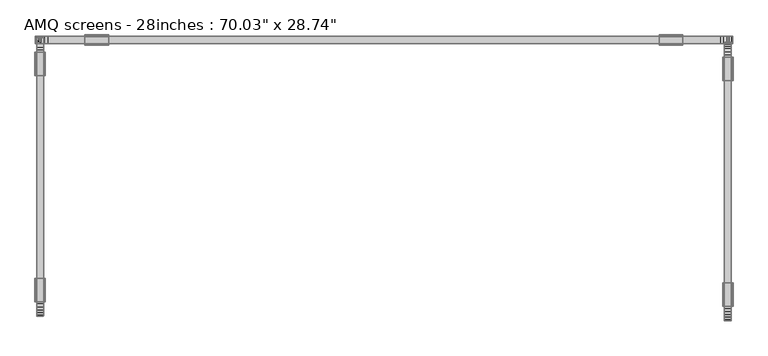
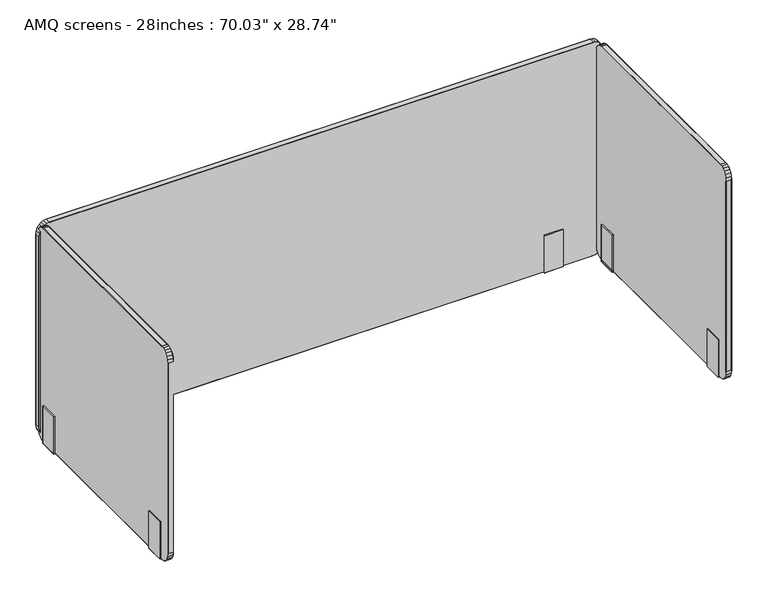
"""IFC4 building model written with IfcOpenShell, lengths in millimetres: furniture geometry."""

import ifcopenshell
import ifcopenshell.guid

model = None  # the IFC model being written
_history = None  # IfcOwnerHistory: only IFC2X3 demands one
_inside = {}  # id of a spatial element -> (the spatial element, [elements in it])
_under = {}  # id of a project, library or spatial element -> (it, [spatial elements below it])
_declared = {}  # id of a project -> (the project, [libraries it declares])
_typed = {}  # id of a type object -> (the type object, [elements of that type])
_made_of = {}  # id of a material, layer set ... -> (it, [elements and type objects made of it])


def new_model(schema):
    """Start an empty IFC model of exactly this schema.

    Asked for "IFC4X3", IfcOpenShell would pick the latest addendum, in which some entities
    have other attributes; the version numbers below select the first issue.
    IFC2X3 requires an IfcOwnerHistory on every rooted entity: one is made here for all.
    """
    global model, _history
    if schema == "IFC4X3":
        model = ifcopenshell.file(schema_version=(4, 3, 0, 0))
    else:
        model = ifcopenshell.file(schema=schema)
    _inside.clear()
    _under.clear()
    _declared.clear()
    _typed.clear()
    _made_of.clear()
    _history = None
    if model.schema == "IFC2X3":
        org = make("IfcOrganization", Name="unknown")
        user = make(
            "IfcPersonAndOrganization",
            ThePerson=make("IfcPerson", FamilyName="unknown"),
            TheOrganization=org,
        )
        app = make(
            "IfcApplication",
            ApplicationDeveloper=org,
            Version="unknown",
            ApplicationFullName="unknown",
            ApplicationIdentifier="unknown",
        )
        _history = make(
            "IfcOwnerHistory",
            OwningUser=user,
            OwningApplication=app,
            ChangeAction="ADDED",
            CreationDate=0,
        )
    return model


def make(cls, **values):
    """One entity of the class cls with the attributes given. An attribute that is None is left unset."""
    return model.create_entity(
        cls, **{name: value for name, value in values.items() if value is not None}
    )


def rooted(cls, **values):
    """An entity with a GlobalId (a new one), such as an element, a storey or a relation."""
    return make(cls, GlobalId=ifcopenshell.guid.new(), OwnerHistory=_history, **values)


def si_unit(unit_type, name, prefix=None):
    """IfcSIUnit, for example si_unit("LENGTHUNIT", "METRE", prefix="MILLI")."""
    return make("IfcSIUnit", UnitType=unit_type, Prefix=prefix, Name=name)


def assignment(units):
    """IfcUnitAssignment: the units of a project."""
    return None if units is None else make("IfcUnitAssignment", Units=units)


def point(xyz):
    """IfcCartesianPoint."""
    return None if xyz is None else make("IfcCartesianPoint", Coordinates=xyz)


def direction(xyz):
    """IfcDirection."""
    return None if xyz is None else make("IfcDirection", DirectionRatios=xyz)


def frame(location, z_axis=None, x_axis=None):
    """IfcAxis2Placement3D, a coordinate frame: its origin and axes. An axis left out is left unset."""
    return make(
        "IfcAxis2Placement3D",
        Location=point(location),
        Axis=direction(z_axis),
        RefDirection=direction(x_axis),
    )


def origin():
    """The frame at (0, 0, 0) with its axes left unset."""
    return frame((0.0, 0.0, 0.0))


def place(relative_to, where):
    """IfcLocalPlacement: puts the frame where relative to a parent placement (None: the world)."""
    return make(
        "IfcLocalPlacement", PlacementRelTo=relative_to, RelativePlacement=where
    )


def context(
    kind, dimensions, precision=None, world=None, true_north=None, identifier=None
):
    """IfcGeometricRepresentationContext, for example the 3D "Model" context."""
    return make(
        "IfcGeometricRepresentationContext",
        ContextIdentifier=identifier,
        ContextType=kind,
        CoordinateSpaceDimension=dimensions,
        Precision=precision,
        WorldCoordinateSystem=world,
        TrueNorth=true_north,
    )


def project(units=None, contexts=None):
    """IfcProject with its units and contexts."""
    return rooted(
        "IfcProject",
        Name="project",
        RepresentationContexts=contexts,
        UnitsInContext=assignment(units),
    )


def spatial(cls, under=None, at=None, **own):
    """A site, building, storey or space (cls), placed at a placement, below another one or the project."""
    s = rooted(cls, ObjectPlacement=at, **own)
    if under is not None:
        _under.setdefault(under.id(), (under, []))[1].append(s)
    return s


def point_list(points):
    """IfcCartesianPointList2D or 3D."""
    cls = (
        "IfcCartesianPointList2D" if len(points[0]) == 2 else "IfcCartesianPointList3D"
    )
    return make(cls, CoordList=points)


def triangles(points, corners, closed=None, point_numbers=None):
    """IfcTriangulatedFaceSet: each triangle names its three corners, points numbered from 1."""
    return make(
        "IfcTriangulatedFaceSet",
        Coordinates=point_list(points),
        Closed=closed,
        CoordIndex=corners,
        PnIndex=point_numbers,
    )


def shape(context_of_items, identifier, shape_type, items):
    """IfcShapeRepresentation: the items that make up one representation, for example the "Body"."""
    return make(
        "IfcShapeRepresentation",
        ContextOfItems=context_of_items,
        RepresentationIdentifier=identifier,
        RepresentationType=shape_type,
        Items=items,
    )


def source(mapping_origin, context_of_items, identifier, shape_type, items):
    """IfcRepresentationMap: a shape defined once, which mapped items show again and again."""
    return make(
        "IfcRepresentationMap",
        MappingOrigin=mapping_origin,
        MappedRepresentation=shape(context_of_items, identifier, shape_type, items),
    )


def transform(
    local_origin,
    x_axis=None,
    y_axis=None,
    z_axis=None,
    scale=None,
    scale2=None,
    scale3=None,
    uniform=True,
):
    """IfcCartesianTransformationOperator3D, or its non-uniform kind. x_axis, y_axis, z_axis: its Axis1, 2, 3."""
    if uniform:
        return make(
            "IfcCartesianTransformationOperator3D",
            Axis1=direction(x_axis),
            Axis2=direction(y_axis),
            LocalOrigin=point(local_origin),
            Scale=scale,
            Axis3=direction(z_axis),
        )
    return make(
        "IfcCartesianTransformationOperator3DnonUniform",
        Axis1=direction(x_axis),
        Axis2=direction(y_axis),
        LocalOrigin=point(local_origin),
        Scale=scale,
        Axis3=direction(z_axis),
        Scale2=scale2,
        Scale3=scale3,
    )


def mapped(mapping_source, mapping_target):
    """IfcMappedItem: shows the shape of a source again, moved by a transform."""
    return make(
        "IfcMappedItem", MappingSource=mapping_source, MappingTarget=mapping_target
    )


def made_of(thing, what):
    """Note that an element or type object is made of a material, layer set ...; save() writes the relation."""
    if what is not None:
        _made_of.setdefault(what.id(), (what, []))[1].append(thing)
    return thing


def element(
    cls,
    number,
    at=None,
    inside=None,
    cuts=None,
    type_object=None,
    material=None,
    context=None,
    identifier="Body",
    shape_type=None,
    held_by="IfcProductDefinitionShape",
    body=None,
    shapes=None,
    **own,
):
    """One element of the class cls, such as IfcWall. Its Tag is "e" and its number.

    at: its placement. inside: the storey or other place that contains it. cuts: it is an
    opening in that element (IfcRelVoidsElement). A single representation is given by context,
    identifier, shape_type and body (its items); several are given by shapes. held_by: the class
    of the entity that holds the representations. save() writes the other relations.
    """
    e = rooted(cls, Tag="e%d" % number, ObjectPlacement=at, **own)
    if body is not None:
        shapes = [shape(context, identifier, shape_type, body)]
    if shapes is not None:
        e.Representation = make(held_by, Representations=shapes)
    if inside is not None:
        _inside.setdefault(inside.id(), (inside, []))[1].append(e)
    if cuts is not None:
        rooted(
            "IfcRelVoidsElement", RelatingBuildingElement=cuts, RelatedOpeningElement=e
        )
    if type_object is not None:
        _typed.setdefault(type_object.id(), (type_object, []))[1].append(e)
    return made_of(e, material)


def aggregate(whole, parts):
    """IfcRelAggregates: a whole, such as a stair, and the parts it consists of."""
    return rooted("IfcRelAggregates", RelatingObject=whole, RelatedObjects=parts)


def save(model, path):
    """Write the relations noted so far, then the file.

    IfcRelAggregates (storeys below a building ...), IfcRelContainedInSpatialStructure (elements
    in a storey), IfcRelDefinesByType, IfcRelAssociatesMaterial and IfcRelDeclares: one each for
    every whole, place, type object, material and project.
    """
    for whole, parts in _under.values():
        aggregate(whole, parts)
    for where, things in _inside.values():
        rooted(
            "IfcRelContainedInSpatialStructure",
            RelatedElements=things,
            RelatingStructure=where,
        )
    for kind, things in _typed.values():
        rooted("IfcRelDefinesByType", RelatedObjects=things, RelatingType=kind)
    for what, things in _made_of.values():
        rooted("IfcRelAssociatesMaterial", RelatedObjects=things, RelatingMaterial=what)
    for by, libraries in _declared.values():
        rooted("IfcRelDeclares", RelatingContext=by, RelatedDefinitions=libraries)
    model.write(path)


def furniture_0ca4453a(model_context):
    return source(origin(), model_context, "Body", "Tessellation", [
        triangles([(867.3004766, 314.4628913, 38.760016), (867.3004766, 314.4628913, 1.3049526), (867.3005493, -333.149505, 1.3044439), (867.3005493, -333.1495414, 38.7594347), (867.299968, 314.4625279, 673.4540239), (867.3005493, -333.1499047, 673.4532972), (884.2839603, 344.8169251, 683.966827), (868.3161123, 346.2567355, 673.5104158), (868.3161123, 344.8157261, 683.9604321), (884.2839603, 346.2567355, 673.5103432), (884.2839603, 341.5751535, 693.717322), (868.3161123, 341.5737001, 693.7046774), (884.2839603, 336.5061316, 701.5171366), (868.3161123, 336.5026797, 701.4945362), (868.3161123, 322.4581518, 710.7430269), (884.2839603, 322.4612403, 710.7901171), (868.3161123, 329.948792, 707.4603058), (884.2839603, 329.9522438, 707.493298), (884.2839603, 314.506784, 712.2133587), (868.3161123, 314.507111, 712.1517345), (867.299968, 340.7182654, 693.0616207), (867.299968, 343.84907, 683.5957741), (867.299968, 345.2408455, 673.4542419), (885.3001047, 322.1744119, 709.6081398), (885.3001047, 314.4625279, 673.4542419), (885.3001047, 329.4472601, 706.4331156), (885.3001047, 314.4605295, 710.9787683), (885.3001047, 345.2413178, 38.7598707), (884.2839603, 346.2570989, 38.7036968), (885.3001047, 345.2408455, 673.4542419), (867.3004766, 345.2413178, 38.7597935), (867.299968, 329.4441716, 706.3951818), (867.299968, 335.7956371, 700.6078171), (885.3001047, 343.8499057, 683.6030411), (885.3001047, 340.7198278, 693.0765181), (885.3001047, 335.7987256, 700.6339783), (867.299968, 314.4625279, 710.9091505), (867.299968, 322.1725224, 709.554364), (868.3161123, 346.2570989, 38.7036241), (885.3002501, -333.1499047, 673.4536606), (885.3002501, -333.1495414, 38.7592121), (885.3001047, 314.4628913, 38.7597935), (884.2839603, 344.8172885, 28.2472675), (868.3161123, 344.8160894, 28.2535897), (884.2839603, 341.5759892, 18.496634), (868.3161123, 341.5740635, 18.5094239), (884.2839603, 336.5064949, 10.696984), (868.3161123, 336.5030431, 10.7195106), (884.2839603, 322.4616036, 1.4240506), (868.3161123, 329.9491553, 4.7537816), (884.2839603, 329.9527162, 4.7206463), (868.3161123, 322.4585152, 1.471065), (884.2839603, 314.507111, 0.0006875), (868.3161123, 314.507111, 0.0623074), (884.2841057, -333.1936521, 0.0001061), (885.3001047, 314.4610019, 1.2353395), (885.3002501, -333.147543, 1.2347582), (867.3004766, 343.8494333, 28.6182954), (867.3004766, 340.7186288, 19.1524374), (885.3001047, 322.1747752, 2.6059479), (885.3001047, 329.4476234, 5.7809023), (867.3004766, 335.7961095, 11.6063875), (867.3004766, 329.444535, 5.8189064), (885.3001047, 340.7201912, 19.1373221), (885.3001047, 343.850269, 28.6108831), (885.3001047, 335.7992343, 11.5801548), (867.3004766, 322.1728858, 2.6595019), (868.3162577, -333.1944878, 712.1510078), (884.2841057, -333.1941244, 712.2127773), (867.3001133, -333.1499047, 710.9084238), (884.2841057, -363.5042293, 683.9661003), (868.3162577, -364.9441123, 673.5099072), (884.2841057, -364.9441123, 673.5096891), (868.3162577, -363.5031029, 683.9598507), (884.2841057, -360.2625667, 693.7167406), (868.3162577, -360.2610406, 693.7039507), (884.2841057, -355.1935083, 701.5164825), (868.3162577, -355.1900565, 701.4939548), (884.2841057, -348.6396569, 707.4928619), (884.2841057, -341.1486171, 710.7893904), (868.3162577, -348.6361324, 707.4597244), (868.3162577, -341.1455286, 710.7424456), (885.3002501, -333.1480153, 710.9780416), (867.3001133, -362.5364468, 683.5951927), (867.3001133, -363.9281859, 673.4536606), (867.3001133, -359.4056422, 693.0609667), (885.3002501, -340.8618613, 709.6074131), (885.3002501, -348.1346369, 706.4325342), (885.3002501, -363.9278589, 38.7592121), (884.2841057, -364.943749, 38.7031154), (885.3002501, -363.9281859, 673.4536606), (867.3005493, -363.9278589, 38.7592121), (867.3001133, -354.4831229, 700.6070904), (867.3001133, -348.1315484, 706.3944551), (885.3002501, -359.4072046, 693.076082), (885.3002501, -362.5372825, 683.6026051), (885.3002501, -354.4862114, 700.6332516), (867.3001133, -340.8598992, 709.553928), (868.3162577, -364.943749, 38.7030428), (884.2841057, -363.5038659, 28.2466134), (868.3162577, -363.5027395, 28.2529357), (884.2841057, -360.262167, 18.4960538), (868.3162577, -360.2606046, 18.5087699), (884.2841057, -355.193145, 10.69633), (868.3162577, -355.1896205, 10.7189292), (868.3162577, -348.6358054, 4.7532002), (868.3162577, -341.1451653, 1.4704836), (884.2841057, -341.1482537, 1.4233966), (884.2841057, -348.6392572, 4.7200653), (868.3162577, -333.1940881, 0.0617261), (867.3005493, -359.4052789, 19.1518561), (867.3005493, -362.5360834, 28.6177141), (885.3002501, -348.1342735, 5.7803936), (885.3002501, -340.8614253, 2.6054392), (867.3005493, -348.1311851, 5.8183971), (867.3005493, -354.4826506, 11.6058062), (885.3002501, -362.5369191, 28.6103017), (885.3002501, -359.4068413, 19.1367407), (885.3002501, -354.4858117, 11.5795746), (867.3005493, -340.8595359, 2.6589933), (-857.1782021, 343.0485374, 38.7595028), (-857.1782021, 343.0485374, 1.3045167), (857.2349573, 343.0488281, 1.3045167), (857.2349573, 343.0488281, 38.7595028), (-857.1782021, 343.0480651, 673.4536606), (857.2349573, 343.0483558, 673.4536606), (-887.5329626, 360.0319485, 683.9662457), (-888.9715376, 344.0641005, 673.5099798), (-887.5329626, 344.0641005, 683.959996), (-888.9715376, 360.0319485, 673.5099072), (-884.2897739, 360.0319485, 693.7170313), (-884.2897739, 344.0641005, 693.704096), (-879.2233681, 360.0319485, 701.5165552), (-879.2171185, 344.0641005, 701.4939548), (-865.1714642, 344.0639551, 710.7424456), (-865.1776411, 360.0318031, 710.7893904), (-872.6625767, 344.0641005, 707.4598698), (-872.6687536, 360.0319485, 707.4930073), (-857.221586, 360.0318031, 712.213068), (-857.221586, 344.0639551, 712.1512985), (-883.4337942, 343.0480651, 693.061112), (-886.5656525, 343.0480651, 683.5953381), (-887.9547392, 343.0480651, 673.4536606), (-864.8924841, 361.0478385, 709.6075584), (-857.1782021, 361.0479475, 673.4536606), (-872.1602091, 361.0479475, 706.4325342), (-857.1782021, 361.0478385, 710.9781143), (-887.9547392, 361.0479475, 673.4536606), (-887.9547392, 361.0483109, 38.7594347), (-888.9715376, 360.0324208, 38.7031881), (-887.9547392, 343.0484284, 38.7593575), (-872.1602091, 343.0480651, 706.3946005), (-878.5102575, 343.0480651, 700.6070904), (-886.5656525, 361.0479475, 683.6026051), (-883.4337942, 361.0479475, 693.076082), (-878.5164345, 361.0479475, 700.6333969), (-857.1782021, 343.0479561, 710.9087145), (-864.8863071, 343.0479561, 709.5540733), (-888.9715376, 344.0644275, 38.7031154), (857.2349573, 361.0482382, 673.4536606), (857.2349573, 361.0486015, 38.7593575), (-857.1782021, 361.0483109, 38.7594347), (-887.5329626, 360.0324208, 28.2468314), (-887.5329626, 344.0645728, 28.2530811), (-884.2897739, 360.0324208, 18.4961264), (-884.2897739, 344.0645728, 18.5089152), (-879.2233681, 360.0324208, 10.6964753), (-879.2171185, 344.0645728, 10.7190746), (-865.1776411, 360.0324208, 1.4235421), (-872.6625767, 344.0645728, 4.7532729), (-872.6687536, 360.0324208, 4.7201379), (-865.1714642, 344.0645728, 1.4705563), (-857.221586, 360.0324208, 0.0001788), (-857.221586, 344.0644275, 0.0618714), (857.2783413, 360.0327115, 0.0001788), (-857.1782021, 361.0484199, 1.2349034), (857.2349573, 361.0487105, 1.2349034), (-886.5656525, 343.0485374, 28.6177867), (-883.4337942, 343.0485374, 19.1520014), (-864.8924841, 361.0484199, 2.6055845), (-872.1602091, 361.0484199, 5.7805389), (-878.5102575, 343.0485374, 11.6059515), (-872.1602091, 343.0485374, 5.8183971), (-883.4337942, 361.0484199, 19.1368134), (-886.5656525, 361.0484199, 28.6104471), (-878.5164345, 361.0484199, 11.5797199), (-864.8863071, 343.0485374, 2.6589933), (857.2783413, 344.0642821, 712.1512985), (857.2783413, 360.0322392, 712.213068), (857.2349573, 343.0482468, 710.9087145), (887.5894272, 360.0322392, 683.9662457), (889.0285835, 344.0643911, 673.5099798), (889.0285835, 360.0322392, 673.5099072), (887.5894272, 344.0643911, 683.959996), (884.3464565, 360.0322392, 693.7170313), (884.3464565, 344.0643911, 693.704096), (879.2801233, 360.0322392, 701.5165552), (879.2738737, 344.0643911, 701.4939548), (872.7255089, 360.0322392, 707.4930073), (865.2343964, 360.0320938, 710.7893904), (872.7192593, 344.0643911, 707.4598698), (865.2281467, 344.0642821, 710.7424456), (857.2349573, 361.0481292, 710.9781143), (886.6224077, 343.0483558, 683.5953381), (888.0114218, 343.0483558, 673.4536606), (883.4905495, 343.0483558, 693.061112), (864.9492393, 361.0481292, 709.6075584), (872.2171824, 361.0482382, 706.4325342), (889.0285835, 360.0327115, 38.7031881), (888.0114218, 361.0486015, 38.7593575), (888.0114218, 361.0482382, 673.4536606), (888.0114218, 343.0487191, 38.7593575), (878.5667221, 343.0483558, 700.6070904), (872.2171824, 343.0483558, 706.3946005), (883.4905495, 361.0482382, 693.076082), (886.6224077, 361.0482382, 683.6026051), (878.5734077, 361.0482382, 700.6333969), (864.9430624, 343.0482468, 709.5540733), (889.0285835, 344.0647545, 38.7031154), (887.5894272, 360.0327115, 28.2468314), (887.5894272, 344.0648635, 28.2530811), (884.3464565, 360.0327115, 18.4961264), (884.3464565, 344.0648635, 18.5089152), (879.2801233, 360.0327115, 10.6964753), (879.2738737, 344.0648635, 10.7190746), (872.7192593, 344.0648635, 4.7532729), (865.2281467, 344.0648635, 1.4705563), (865.2343964, 360.0327115, 1.4235421), (872.7255089, 360.0327115, 4.7201379), (857.2783413, 344.0647545, 0.0618714), (883.4905495, 343.0488281, 19.1520014), (886.6224077, 343.0488281, 28.6177867), (872.2171824, 361.0487105, 5.7805389), (864.9492393, 361.0487105, 2.6055845), (872.2171824, 343.0488281, 5.8183971), (878.5667221, 343.0488281, 11.6059515), (886.6224077, 361.0487105, 28.6104471), (883.4905495, 361.0487105, 19.1368134), (878.5734077, 361.0487105, 11.5797199), (864.9430624, 343.0488281, 2.6589933), (-867.3004766, -321.5665638, 38.760016), (-867.3004766, -321.5665638, 1.3049526), (-867.3005493, 326.0457962, 1.3044439), (-867.3005493, 326.0458689, 38.7594347), (-867.299968, -321.5662368, 673.4540239), (-867.3005493, 326.0462322, 673.4532972), (-884.2839603, -351.9205976, 683.966827), (-868.3161123, -353.360408, 673.5104158), (-868.3161123, -351.9193986, 683.9604321), (-884.2839603, -353.360408, 673.5103432), (-884.2839603, -348.678826, 693.717322), (-868.3161123, -348.677409, 693.7046774), (-884.2839603, -343.6098041, 701.5171366), (-868.3161123, -343.6063522, 701.4945362), (-868.3161123, -329.5618243, 710.7430269), (-884.2839603, -329.5649128, 710.7901171), (-868.3161123, -337.0524645, 707.4603058), (-884.2839603, -337.0559163, 707.493298), (-884.2839603, -321.6104565, 712.2133587), (-868.3161123, -321.6108198, 712.1517345), (-867.299968, -347.8219379, 693.0616207), (-867.299968, -350.9527425, 683.5957741), (-867.299968, -352.344518, 673.4542419), (-885.3001047, -329.2781207, 709.6081398), (-885.3001047, -321.5662368, 673.4542419), (-885.3001047, -336.5509689, 706.4331156), (-885.3001047, -321.564202, 710.9787683), (-885.3001047, -352.3449903, 38.7598707), (-884.2839603, -353.3607714, 38.7036968), (-885.3001047, -352.344518, 673.4542419), (-867.3004766, -352.3449903, 38.7597935), (-867.299968, -336.5478441, 706.3951818), (-867.299968, -342.8993096, 700.6078171), (-885.3001047, -350.9535782, 683.6030411), (-885.3001047, -347.8235003, 693.0765181), (-885.3001047, -342.9024344, 700.6339783), (-867.299968, -321.5662368, 710.9091505), (-867.299968, -329.276195, 709.554364), (-868.3161123, -353.3607714, 38.7036241), (-885.3002501, 326.0462322, 673.4536606), (-885.3002501, 326.0458689, 38.7592121), (-885.3001047, -321.5665638, 38.7597935), (-884.2839603, -351.920961, 28.2472675), (-868.3161123, -351.9197619, 28.2535897), (-884.2839603, -348.6796618, 18.496634), (-868.3161123, -348.6777723, 18.5094239), (-884.2839603, -343.6101674, 10.696984), (-868.3161123, -343.6067156, 10.7195106), (-884.2839603, -329.5652761, 1.4240506), (-868.3161123, -337.0528278, 4.7537816), (-884.2839603, -337.0563887, 4.7206463), (-868.3161123, -329.5621877, 1.471065), (-884.2839603, -321.6108198, 0.0006875), (-868.3161123, -321.6108198, 0.0623074), (-884.2841057, 326.0899796, 0.0001061), (-885.3001047, -321.5646744, 1.2353395), (-885.3002501, 326.0438341, 1.2347582), (-867.3004766, -350.9531058, 28.6182954), (-867.3004766, -347.8223013, 19.1524374), (-885.3001047, -329.2784841, 2.6059479), (-885.3001047, -336.5512959, 5.7809023), (-867.3004766, -342.899782, 11.6063875), (-867.3004766, -336.5482075, 5.8189064), (-885.3001047, -347.8238637, 19.1373221), (-885.3001047, -350.9539415, 28.6108831), (-885.3001047, -342.9029068, 11.5801548), (-867.3004766, -329.2765583, 2.6595019), (-868.3162577, 326.0908153, 712.1510078), (-884.2841057, 326.0904519, 712.2127773), (-867.3001133, 326.0462322, 710.9084238), (-884.2841057, 356.4005568, 683.9661003), (-868.3162577, 357.8404035, 673.5099072), (-884.2841057, 357.8404035, 673.5096891), (-868.3162577, 356.3994304, 683.9598507), (-884.2841057, 353.1588942, 693.7167406), (-868.3162577, 353.1573318, 693.7039507), (-884.2841057, 348.0897995, 701.5164825), (-868.3162577, 348.0863477, 701.4939548), (-884.2841057, 341.5359844, 707.4928619), (-884.2841057, 334.0449446, 710.7893904), (-868.3162577, 341.5324599, 707.4597244), (-868.3162577, 334.0418198, 710.7424456), (-885.3002501, 326.0443065, 710.9780416), (-867.3001133, 355.4327379, 683.5951927), (-867.3001133, 356.8245134, 673.4536606), (-867.3001133, 352.3019697, 693.0609667), (-885.3002501, 333.7581888, 709.6074131), (-885.3002501, 341.0309644, 706.4325342), (-885.3002501, 356.8241501, 38.7592121), (-884.2841057, 357.8400764, 38.7031154), (-885.3002501, 356.8245134, 673.4536606), (-867.3005493, 356.8241501, 38.7592121), (-867.3001133, 347.3794504, 700.6070904), (-867.3001133, 341.0278396, 706.3944551), (-885.3002501, 352.3034958, 693.076082), (-885.3002501, 355.4335736, 683.6026051), (-885.3002501, 347.3825389, 700.6332516), (-867.3001133, 333.7561904, 709.553928), (-868.3162577, 357.8400764, 38.7030428), (-884.2841057, 356.4001934, 28.2466134), (-868.3162577, 356.399067, 28.2529357), (-884.2841057, 353.1584581, 18.4960538), (-868.3162577, 353.1569321, 18.5087699), (-884.2841057, 348.0894725, 10.69633), (-868.3162577, 348.085948, 10.7189292), (-868.3162577, 341.5320966, 4.7532002), (-868.3162577, 334.0414927, 1.4704836), (-884.2841057, 334.0445812, 1.4233966), (-884.2841057, 341.5355847, 4.7200653), (-868.3162577, 326.0903792, 0.0617261), (-867.3005493, 352.3016064, 19.1518561), (-867.3005493, 355.4323746, 28.6177141), (-885.3002501, 341.030601, 5.7803936), (-885.3002501, 333.7577528, 2.6054392), (-867.3005493, 341.0275126, 5.8183971), (-867.3005493, 347.3789781, 11.6058062), (-885.3002501, 355.4332103, 28.6103017), (-885.3002501, 352.3031324, 19.1367407), (-885.3002501, 347.3821392, 11.5795746), (-867.3005493, 333.7558634, 2.6589933)], [[1, 2, 3], [1, 3, 4], [5, 1, 4], [5, 4, 6], [7, 8, 9], [10, 8, 7], [11, 9, 12], [7, 9, 11], [13, 12, 14], [11, 12, 13], [15, 16, 17], [16, 18, 17], [19, 15, 20], [19, 16, 15], [17, 18, 14], [18, 13, 14], [21, 22, 5], [22, 23, 5], [24, 25, 26], [27, 25, 24], [28, 29, 30], [30, 29, 10], [23, 31, 5], [5, 31, 1], [32, 33, 5], [33, 21, 5], [34, 25, 30], [35, 25, 34], [36, 25, 35], [26, 25, 36], [37, 38, 5], [38, 32, 5], [39, 23, 8], [39, 31, 23], [25, 40, 41], [25, 41, 42], [43, 39, 29], [43, 44, 39], [45, 44, 43], [45, 46, 44], [45, 47, 46], [47, 48, 46], [49, 50, 51], [52, 50, 49], [53, 52, 49], [54, 52, 53], [55, 56, 57], [55, 53, 56], [51, 48, 47], [50, 48, 51], [1, 31, 58], [1, 58, 59], [42, 56, 60], [42, 60, 61], [1, 59, 62], [1, 62, 63], [42, 64, 65], [28, 42, 65], [42, 61, 66], [42, 66, 64], [1, 63, 67], [1, 67, 2], [29, 8, 10], [29, 39, 8], [25, 42, 30], [30, 42, 28], [68, 19, 20], [68, 69, 19], [37, 5, 6], [37, 6, 70], [42, 41, 56], [41, 57, 56], [71, 72, 73], [71, 74, 72], [75, 74, 71], [75, 76, 74], [75, 77, 76], [77, 78, 76], [79, 80, 81], [81, 80, 82], [80, 69, 82], [82, 69, 68], [83, 27, 19], [69, 83, 19], [77, 79, 78], [78, 79, 81], [84, 6, 85], [86, 6, 84], [83, 87, 40], [87, 88, 40], [89, 73, 90], [89, 91, 73], [6, 4, 92], [85, 6, 92], [93, 6, 86], [94, 6, 93], [95, 96, 40], [96, 91, 40], [88, 97, 40], [97, 95, 40], [98, 6, 94], [70, 6, 98], [99, 85, 92], [99, 72, 85], [100, 99, 101], [90, 99, 100], [102, 101, 103], [100, 101, 102], [104, 103, 105], [102, 103, 104], [106, 107, 108], [109, 106, 108], [107, 110, 55], [108, 107, 55], [105, 106, 109], [104, 105, 109], [4, 111, 112], [4, 112, 92], [41, 113, 114], [41, 114, 57], [4, 115, 116], [4, 116, 111], [41, 89, 117], [41, 117, 118], [41, 118, 119], [41, 119, 113], [4, 3, 120], [4, 120, 115], [90, 72, 99], [90, 73, 72], [91, 89, 41], [91, 41, 40], [68, 37, 70], [20, 37, 68], [27, 83, 25], [83, 40, 25], [55, 54, 53], [110, 54, 55], [2, 54, 110], [2, 110, 3], [121, 122, 123], [121, 123, 124], [125, 121, 124], [125, 124, 126], [127, 128, 129], [130, 128, 127], [131, 129, 132], [127, 129, 131], [133, 132, 134], [131, 132, 133], [135, 136, 137], [136, 138, 137], [139, 135, 140], [139, 136, 135], [137, 138, 134], [138, 133, 134], [141, 142, 125], [142, 143, 125], [144, 145, 146], [147, 145, 144], [148, 149, 150], [130, 148, 150], [143, 151, 125], [125, 151, 121], [152, 153, 125], [153, 141, 125], [154, 145, 148], [155, 145, 154], [156, 145, 155], [146, 145, 156], [157, 158, 125], [158, 152, 125], [128, 159, 143], [143, 159, 151], [160, 161, 145], [145, 161, 162], [163, 159, 150], [163, 164, 159], [165, 164, 163], [165, 166, 164], [165, 167, 166], [167, 168, 166], [169, 170, 171], [172, 170, 169], [173, 172, 169], [174, 172, 173], [175, 176, 177], [175, 173, 176], [171, 168, 167], [170, 168, 171], [121, 151, 178], [121, 178, 179], [162, 176, 180], [162, 180, 181], [121, 179, 182], [121, 182, 183], [162, 184, 185], [162, 185, 149], [162, 181, 186], [162, 186, 184], [121, 183, 187], [121, 187, 122], [150, 128, 130], [150, 159, 128], [145, 162, 148], [148, 162, 149], [188, 139, 140], [189, 139, 188], [157, 125, 126], [157, 126, 190], [162, 161, 176], [161, 177, 176], [191, 192, 193], [191, 194, 192], [191, 195, 194], [195, 196, 194], [197, 196, 195], [197, 198, 196], [199, 200, 201], [201, 200, 202], [200, 189, 202], [202, 189, 188], [203, 147, 139], [189, 203, 139], [197, 199, 198], [198, 199, 201], [204, 126, 205], [206, 126, 204], [203, 207, 160], [207, 208, 160], [193, 209, 210], [193, 210, 211], [126, 124, 212], [205, 126, 212], [213, 126, 206], [214, 126, 213], [215, 216, 160], [216, 211, 160], [208, 217, 160], [217, 215, 160], [218, 126, 214], [190, 126, 218], [205, 212, 219], [192, 205, 219], [220, 219, 221], [220, 209, 219], [222, 221, 223], [220, 221, 222], [224, 223, 225], [222, 223, 224], [226, 227, 228], [229, 226, 228], [227, 230, 175], [228, 227, 175], [225, 226, 229], [224, 225, 229], [124, 231, 232], [124, 232, 212], [161, 233, 234], [161, 234, 177], [124, 235, 236], [124, 236, 231], [210, 237, 161], [161, 237, 238], [161, 238, 239], [161, 239, 233], [124, 123, 240], [124, 240, 235], [209, 192, 219], [209, 193, 192], [211, 210, 161], [211, 161, 160], [188, 157, 190], [140, 157, 188], [203, 145, 147], [203, 160, 145], [175, 174, 173], [230, 174, 175], [122, 174, 230], [122, 230, 123], [241, 242, 243], [241, 243, 244], [245, 241, 244], [245, 244, 246], [247, 248, 249], [250, 248, 247], [251, 249, 252], [247, 249, 251], [253, 252, 254], [251, 252, 253], [255, 256, 257], [256, 258, 257], [259, 255, 260], [259, 256, 255], [257, 258, 254], [258, 253, 254], [261, 262, 245], [262, 263, 245], [264, 265, 266], [267, 265, 264], [268, 269, 270], [270, 269, 250], [263, 271, 245], [245, 271, 241], [272, 273, 245], [273, 261, 245], [274, 265, 270], [275, 265, 274], [276, 265, 275], [266, 265, 276], [277, 278, 245], [278, 272, 245], [279, 263, 248], [279, 271, 263], [265, 280, 281], [265, 281, 282], [283, 279, 269], [283, 284, 279], [285, 284, 283], [285, 286, 284], [285, 287, 286], [287, 288, 286], [289, 290, 291], [292, 290, 289], [293, 292, 289], [294, 292, 293], [295, 296, 297], [295, 293, 296], [291, 288, 287], [290, 288, 291], [241, 271, 298], [241, 298, 299], [282, 296, 300], [282, 300, 301], [241, 299, 302], [241, 302, 303], [282, 304, 305], [268, 282, 305], [282, 301, 306], [282, 306, 304], [241, 303, 307], [241, 307, 242], [269, 248, 250], [269, 279, 248], [265, 282, 270], [270, 282, 268], [308, 259, 260], [308, 309, 259], [277, 245, 246], [277, 246, 310], [282, 281, 296], [281, 297, 296], [311, 312, 313], [311, 314, 312], [315, 314, 311], [315, 316, 314], [315, 317, 316], [317, 318, 316], [319, 320, 321], [321, 320, 322], [320, 309, 322], [322, 309, 308], [323, 267, 259], [309, 323, 259], [317, 319, 318], [318, 319, 321], [324, 246, 325], [326, 246, 324], [323, 327, 280], [327, 328, 280], [329, 313, 330], [329, 331, 313], [246, 244, 332], [325, 246, 332], [333, 246, 326], [334, 246, 333], [335, 336, 280], [336, 331, 280], [328, 337, 280], [337, 335, 280], [338, 246, 334], [310, 246, 338], [339, 325, 332], [339, 312, 325], [340, 339, 341], [330, 339, 340], [342, 341, 343], [340, 341, 342], [344, 343, 345], [342, 343, 344], [346, 347, 348], [349, 346, 348], [347, 350, 295], [348, 347, 295], [345, 346, 349], [344, 345, 349], [244, 351, 352], [244, 352, 332], [281, 353, 354], [281, 354, 297], [244, 355, 356], [244, 356, 351], [281, 329, 357], [281, 357, 358], [281, 358, 359], [281, 359, 353], [244, 243, 360], [244, 360, 355], [330, 312, 339], [330, 313, 312], [331, 329, 281], [331, 281, 280], [308, 277, 310], [260, 277, 308], [267, 323, 265], [323, 280, 265], [295, 294, 293], [350, 294, 295], [242, 294, 350], [242, 350, 243]], closed=False),
        triangles([(889.4058134, -327.999347, 123.6855554), (889.4058134, -267.9994665, 123.6855554), (885.4056215, -327.999347, 123.6855554), (885.4056215, -267.9994665, 123.6855554), (885.4056215, -327.999347, 24.3661544), (885.4056215, -267.9994665, 24.3661544), (867.4054848, -327.999347, 24.3661544), (867.4054848, -267.9994665, 24.3661544), (867.4062841, 248.4793643, 24.3660818), (863.4060923, 248.4793643, 24.3660818), (867.4062841, 248.4793643, 0.0002515), (863.4060923, 248.4793643, 0.0002515), (867.4062841, 248.4793643, 123.6854827), (863.4060923, 248.4793643, 123.6854827), (889.4061768, 248.4793643, 24.3660818), (885.4064209, 248.4793643, 0.0002515), (889.4061768, 248.4793643, 0.0002515), (885.4064209, 248.4793643, 24.3660818), (885.4064209, 248.4793643, 123.6854827), (889.4061768, 248.4793643, 123.6854827), (867.4062841, 308.4791722, 0.0002515), (863.4060923, 308.4791722, 24.3660818), (867.4062841, 308.4791722, 24.3660818), (863.4060923, 308.4791722, 0.0002515), (867.4062841, 308.4791722, 123.6855554), (863.4060923, 308.4791722, 123.6855554), (889.4061768, 308.4791722, 0.0002515), (885.4064209, 308.4791722, 0.0002515), (889.4061768, 308.4791722, 24.3660818), (885.4064209, 308.4791722, 24.3660818), (885.4064209, 308.4791722, 123.6855554), (889.4061768, 308.4791722, 123.6855554), (863.4052929, -327.999347, 24.3661544), (867.4054848, -327.999347, 0.0002515), (863.4052929, -327.999347, 0.0002515), (867.4054848, -327.999347, 123.6855554), (863.4052929, -327.999347, 123.6855554), (889.4058134, -327.999347, 24.3661544), (885.4056215, -327.999347, 0.0002515), (889.4058134, -327.999347, 0.0002515), (867.4054848, -267.9994665, 0.0002515), (863.4052929, -267.9994665, 24.3661544), (863.4052929, -267.9994665, 0.0002515), (867.4054848, -267.9994665, 123.6855554), (863.4052929, -267.9994665, 123.6855554), (889.4058134, -267.9994665, 0.0002515), (885.4056215, -267.9994665, 0.0002515), (889.4058134, -267.9994665, 24.3661544), (-701.7910297, 338.9435918, 123.6857007), (-761.7907831, 338.9435918, 123.6857007), (-701.7910297, 342.9437837, 123.6856281), (-761.7907831, 342.9437837, 123.6856281), (-701.7910297, 342.942839, 24.3662271), (-761.7907831, 342.942839, 24.3662271), (-701.7910297, 360.9428304, 24.3659364), (-761.7907831, 360.9428304, 24.3659364), (701.3101725, 364.9436399, 24.3660818), (701.3101725, 360.9434481, 0.0002515), (701.3101725, 360.9434481, 24.3660818), (701.3101725, 364.9436399, 0.0002515), (701.3101725, 360.9434481, 123.6854827), (701.3101725, 364.9436399, 123.6854827), (701.3101725, 342.9434203, 0.0002515), (701.3101725, 338.9432284, 0.0002515), (701.3101725, 338.9432284, 24.3660818), (701.3101725, 342.9434203, 24.3660818), (701.3101725, 342.9434203, 123.6854827), (701.3101725, 338.9432284, 123.6854827), (761.3100712, 364.9436399, 24.3660818), (761.3100712, 360.9434481, 24.3660818), (761.3100712, 360.9434481, 0.0002515), (761.3100712, 364.9436399, 0.0002515), (761.3100712, 364.9436399, 123.6855554), (761.3100712, 360.9434481, 123.6855554), (761.3100712, 342.9434203, 0.0002515), (761.3100712, 338.9432284, 24.3660818), (761.3100712, 338.9432284, 0.0002515), (761.3100712, 342.9434203, 24.3660818), (761.3100712, 342.9434203, 123.6855554), (761.3100712, 338.9432284, 123.6855554), (-701.7910297, 364.9430223, 24.3659364), (-701.7910297, 360.9426124, 0.0001061), (-701.7910297, 364.9428042, 3.35e-05), (-701.7910297, 364.943967, 123.6853374), (-701.7910297, 360.9438114, 123.6853374), (-701.7910297, 342.9425846, 0.0003241), (-701.7910297, 338.9423927, 0.0003968), (-701.7910297, 338.9426471, 24.3662271), (-761.7907831, 364.9430223, 24.3659364), (-761.7907831, 360.9426124, 0.0001061), (-761.7907831, 364.9428042, 3.35e-05), (-761.7907831, 364.943967, 123.6853374), (-761.7907831, 360.9438114, 123.6853374), (-761.7907831, 342.9425846, 0.0003241), (-761.7907831, 338.9426471, 24.3662271), (-761.7907831, 338.9423927, 0.0003968), (-889.4058134, 320.8956745, 123.6855554), (-889.4058134, 260.895794, 123.6855554), (-885.4056215, 320.8956745, 123.6855554), (-885.4056215, 260.895794, 123.6855554), (-885.4056215, 320.8956745, 24.3661544), (-885.4056215, 260.895794, 24.3661544), (-867.4054848, 320.8956745, 24.3661544), (-867.4054848, 260.895794, 24.3661544), (-867.4062841, -255.583055, 24.3660818), (-863.4060923, -255.583055, 24.3660818), (-867.4062841, -255.583055, 0.0002515), (-863.4060923, -255.583055, 0.0002515), (-867.4062841, -255.583055, 123.6854827), (-863.4060923, -255.583055, 123.6854827), (-889.4061768, -255.583055, 24.3660818), (-885.4064209, -255.583055, 0.0002515), (-889.4061768, -255.583055, 0.0002515), (-885.4064209, -255.583055, 24.3660818), (-885.4064209, -255.583055, 123.6854827), (-889.4061768, -255.583055, 123.6854827), (-867.4062841, -315.5828811, 0.0002515), (-863.4060923, -315.5828811, 24.3660818), (-867.4062841, -315.5828811, 24.3660818), (-863.4060923, -315.5828811, 0.0002515), (-867.4062841, -315.5828811, 123.6855554), (-863.4060923, -315.5828811, 123.6855554), (-889.4061768, -315.5828811, 0.0002515), (-885.4064209, -315.5828811, 0.0002515), (-889.4061768, -315.5828811, 24.3660818), (-885.4064209, -315.5828811, 24.3660818), (-885.4064209, -315.5828811, 123.6855554), (-889.4061768, -315.5828811, 123.6855554), (-863.4052929, 320.8956745, 24.3661544), (-867.4054848, 320.8956745, 0.0002515), (-863.4052929, 320.8956745, 0.0002515), (-867.4054848, 320.8956745, 123.6855554), (-863.4052929, 320.8956745, 123.6855554), (-889.4058134, 320.8956745, 24.3661544), (-885.4056215, 320.8956745, 0.0002515), (-889.4058134, 320.8956745, 0.0002515), (-867.4054848, 260.895794, 0.0002515), (-863.4052929, 260.895794, 24.3661544), (-863.4052929, 260.895794, 0.0002515), (-867.4054848, 260.895794, 123.6855554), (-863.4052929, 260.895794, 123.6855554), (-889.4058134, 260.895794, 0.0002515), (-885.4056215, 260.895794, 0.0002515), (-889.4058134, 260.895794, 24.3661544)], [[1, 2, 3], [3, 2, 4], [5, 6, 7], [7, 6, 8], [9, 10, 11], [11, 10, 12], [13, 14, 10], [13, 10, 9], [15, 16, 17], [15, 18, 16], [15, 19, 18], [20, 19, 15], [16, 9, 11], [18, 9, 16], [21, 22, 23], [21, 24, 22], [25, 22, 26], [23, 22, 25], [27, 28, 29], [29, 28, 30], [29, 30, 31], [29, 31, 32], [28, 21, 23], [28, 23, 30], [22, 12, 10], [22, 24, 12], [12, 24, 11], [11, 24, 21], [13, 25, 14], [14, 25, 26], [26, 10, 14], [26, 22, 10], [13, 9, 23], [25, 13, 23], [16, 28, 17], [17, 28, 27], [15, 17, 27], [29, 15, 27], [31, 18, 19], [31, 30, 18], [20, 15, 29], [32, 20, 29], [20, 32, 19], [19, 32, 31], [18, 30, 9], [9, 30, 23], [7, 33, 34], [34, 33, 35], [36, 37, 33], [36, 33, 7], [38, 39, 40], [38, 5, 39], [38, 3, 5], [1, 3, 38], [39, 7, 34], [5, 7, 39], [41, 42, 8], [41, 43, 42], [44, 42, 45], [8, 42, 44], [46, 47, 48], [48, 47, 6], [48, 6, 4], [48, 4, 2], [47, 41, 8], [47, 8, 6], [42, 35, 33], [42, 43, 35], [35, 43, 34], [34, 43, 41], [36, 44, 37], [37, 44, 45], [45, 33, 37], [45, 42, 33], [36, 7, 8], [44, 36, 8], [39, 47, 40], [40, 47, 46], [38, 40, 46], [48, 38, 46], [4, 5, 3], [4, 6, 5], [1, 38, 48], [2, 1, 48], [49, 50, 51], [51, 50, 52], [53, 54, 55], [55, 54, 56], [57, 58, 59], [60, 58, 57], [57, 61, 62], [57, 59, 61], [63, 64, 65], [63, 65, 66], [66, 65, 67], [67, 65, 68], [58, 63, 59], [59, 63, 66], [69, 70, 71], [69, 71, 72], [73, 74, 69], [69, 74, 70], [75, 76, 77], [78, 76, 75], [79, 76, 78], [79, 80, 76], [70, 75, 71], [70, 78, 75], [69, 60, 57], [69, 72, 60], [72, 58, 60], [71, 58, 72], [74, 62, 61], [73, 62, 74], [73, 57, 62], [73, 69, 57], [61, 59, 70], [74, 61, 70], [75, 64, 63], [77, 64, 75], [65, 64, 77], [76, 65, 77], [79, 66, 67], [79, 78, 66], [68, 65, 76], [80, 68, 76], [80, 67, 68], [79, 67, 80], [78, 59, 66], [70, 59, 78], [81, 82, 55], [81, 83, 82], [84, 81, 85], [81, 55, 85], [86, 87, 88], [53, 86, 88], [51, 53, 88], [51, 88, 49], [55, 82, 86], [55, 86, 53], [89, 56, 90], [89, 90, 91], [92, 93, 89], [89, 93, 56], [94, 95, 96], [54, 95, 94], [52, 95, 54], [52, 50, 95], [56, 94, 90], [56, 54, 94], [89, 83, 81], [89, 91, 83], [83, 91, 82], [82, 91, 90], [85, 93, 84], [84, 93, 92], [92, 81, 84], [92, 89, 81], [85, 55, 56], [85, 56, 93], [86, 94, 87], [87, 94, 96], [88, 87, 96], [95, 88, 96], [52, 53, 51], [52, 54, 53], [49, 88, 95], [50, 49, 95], [97, 98, 99], [99, 98, 100], [101, 102, 103], [103, 102, 104], [105, 106, 107], [107, 106, 108], [109, 110, 106], [109, 106, 105], [111, 112, 113], [111, 114, 112], [111, 115, 114], [116, 115, 111], [112, 105, 107], [114, 105, 112], [117, 118, 119], [117, 120, 118], [121, 118, 122], [119, 118, 121], [123, 124, 125], [125, 124, 126], [125, 126, 127], [125, 127, 128], [124, 117, 119], [124, 119, 126], [118, 108, 106], [118, 120, 108], [108, 120, 107], [107, 120, 117], [109, 121, 110], [110, 121, 122], [122, 106, 110], [122, 118, 106], [109, 105, 119], [121, 109, 119], [112, 124, 113], [113, 124, 123], [111, 113, 123], [125, 111, 123], [127, 114, 115], [127, 126, 114], [116, 111, 125], [128, 116, 125], [116, 128, 115], [115, 128, 127], [114, 126, 105], [105, 126, 119], [103, 129, 130], [130, 129, 131], [132, 133, 129], [132, 129, 103], [134, 135, 136], [134, 101, 135], [134, 99, 101], [97, 99, 134], [135, 103, 130], [101, 103, 135], [137, 138, 104], [137, 139, 138], [140, 138, 141], [104, 138, 140], [142, 143, 144], [144, 143, 102], [144, 102, 100], [144, 100, 98], [143, 137, 104], [143, 104, 102], [138, 131, 129], [138, 139, 131], [131, 139, 130], [130, 139, 137], [132, 140, 133], [133, 140, 141], [141, 129, 133], [141, 138, 129], [132, 103, 104], [140, 132, 104], [135, 143, 136], [136, 143, 142], [134, 136, 142], [144, 134, 142], [100, 101, 99], [100, 102, 101], [97, 134, 144], [98, 97, 144]], closed=False),
    ])


if __name__ == "__main__":
    model = new_model("IFC4")
    model_context = context("Model", 3, world=origin())
    ifc_project = project(units=[si_unit("LENGTHUNIT", "METRE", prefix="MILLI")], contexts=[model_context])
    site = spatial("IfcSite", under=ifc_project)
    building = spatial("IfcBuilding", under=site)
    placement = place(None, origin())
    furniture_shape = furniture_0ca4453a(model_context)
    element("IfcFurniture", 1, ObjectType="AMQ screens - 28inches : 70.03\" x 28.74\"", at=placement, inside=building, context=model_context, shape_type="MappedRepresentation", body=[
        mapped(furniture_shape, transform((0.0, 0.0, 0.0), x_axis=(1.0, 0.0, 0.0), y_axis=(0.0, 1.0, 0.0), z_axis=(0.0, 0.0, 1.0))),
    ])
    save(model, "model.ifc")
